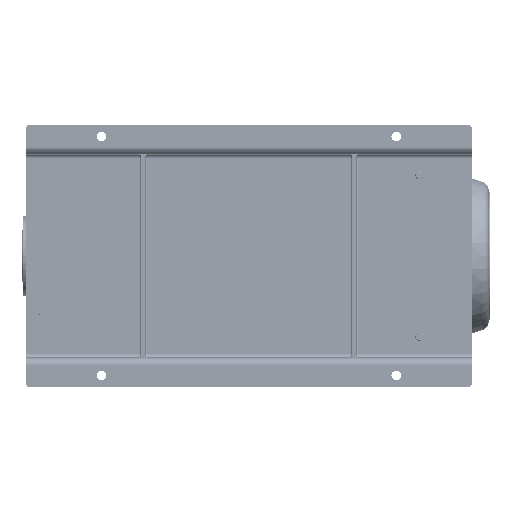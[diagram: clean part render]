
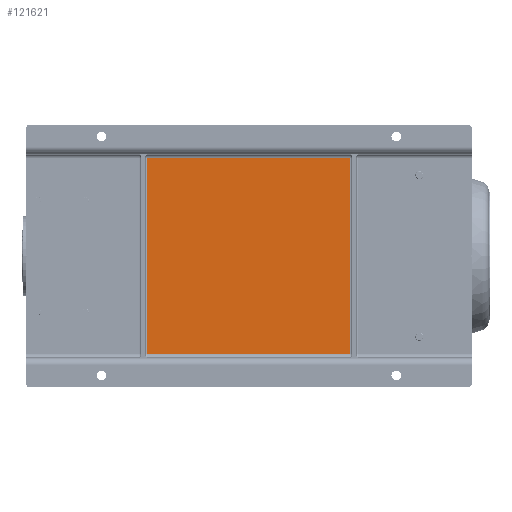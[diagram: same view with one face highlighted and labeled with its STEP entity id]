
A CAD part, front view. The second image highlights one B-rep face of the part: STEP entity #121621.
In plain terms, the highlighted planar face has unit normal (0, -1, 0).
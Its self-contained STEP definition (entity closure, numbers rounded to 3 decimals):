
#13061 = PLANE ( 'NONE',  #153279 ) ;
#13401 = CARTESIAN_POINT ( 'NONE',  ( 85., 65., -815. ) ) ;
#20170 = VECTOR ( 'NONE', #102045, 1000. ) ;
#24879 = CARTESIAN_POINT ( 'NONE',  ( 75., 65., -1120. ) ) ;
#26687 = FACE_OUTER_BOUND ( 'NONE', #118625, .T. ) ;
#26828 = ORIENTED_EDGE ( 'NONE', *, *, #119950, .T. ) ;
#27070 = VERTEX_POINT ( 'NONE', #82695 ) ;
#36226 = DIRECTION ( 'NONE',  ( 0., 0., 1. ) ) ;
#37785 = EDGE_CURVE ( 'NONE', #27070, #69982, #43997, .T. ) ;
#43997 = LINE ( 'NONE', #46666, #20170 ) ;
#46666 = CARTESIAN_POINT ( 'NONE',  ( 85., 65., -820. ) ) ;
#49847 = LINE ( 'NONE', #160489, #139373 ) ;
#64352 = LINE ( 'NONE', #78867, #167474 ) ;
#69982 = VERTEX_POINT ( 'NONE', #13401 ) ;
#78867 = CARTESIAN_POINT ( 'NONE',  ( 75., 65., -815. ) ) ;
#82695 = CARTESIAN_POINT ( 'NONE',  ( 85., 65., -305. ) ) ;
#83855 = DIRECTION ( 'NONE',  ( 0., 0., -1. ) ) ;
#88660 = VECTOR ( 'NONE', #101806, 1000. ) ;
#89603 = EDGE_CURVE ( 'NONE', #115076, #149065, #49847, .T. ) ;
#101806 = DIRECTION ( 'NONE',  ( -1., 0., 0. ) ) ;
#102045 = DIRECTION ( 'NONE',  ( 0., 0., -1. ) ) ;
#115076 = VERTEX_POINT ( 'NONE', #161778 ) ;
#118625 = EDGE_LOOP ( 'NONE', ( #160083, #26828, #137584, #138967 ) ) ;
#119950 = EDGE_CURVE ( 'NONE', #69982, #115076, #64352, .T. ) ;
#121621 = ADVANCED_FACE ( 'NONE', ( #26687 ), #13061, .T. ) ;
#124828 = CARTESIAN_POINT ( 'NONE',  ( 575., 65., -305. ) ) ;
#134157 = DIRECTION ( 'NONE',  ( 1., 0., 0. ) ) ;
#137584 = ORIENTED_EDGE ( 'NONE', *, *, #89603, .T. ) ;
#138967 = ORIENTED_EDGE ( 'NONE', *, *, #161241, .T. ) ;
#139373 = VECTOR ( 'NONE', #36226, 1000. ) ;
#149065 = VERTEX_POINT ( 'NONE', #124828 ) ;
#152774 = DIRECTION ( 'NONE',  ( 0., -1., 0. ) ) ;
#153279 = AXIS2_PLACEMENT_3D ( 'NONE', #24879, #152774, #83855 ) ;
#160083 = ORIENTED_EDGE ( 'NONE', *, *, #37785, .T. ) ;
#160489 = CARTESIAN_POINT ( 'NONE',  ( 575., 65., -300. ) ) ;
#161241 = EDGE_CURVE ( 'NONE', #149065, #27070, #171557, .T. ) ;
#161778 = CARTESIAN_POINT ( 'NONE',  ( 575., 65., -815. ) ) ;
#167474 = VECTOR ( 'NONE', #134157, 1000. ) ;
#171557 = LINE ( 'NONE', #174249, #88660 ) ;
#174249 = CARTESIAN_POINT ( 'NONE',  ( 75., 65., -305. ) ) ;
